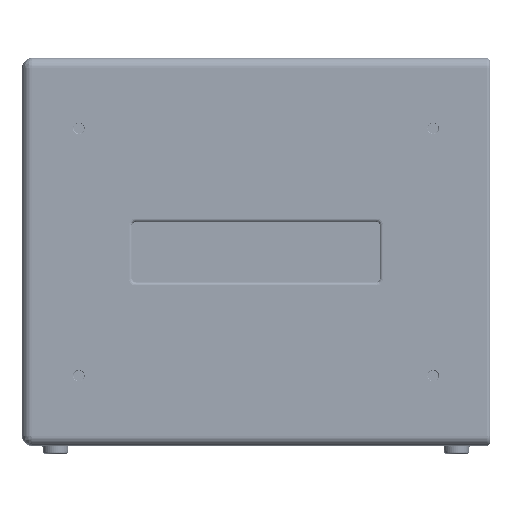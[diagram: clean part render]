
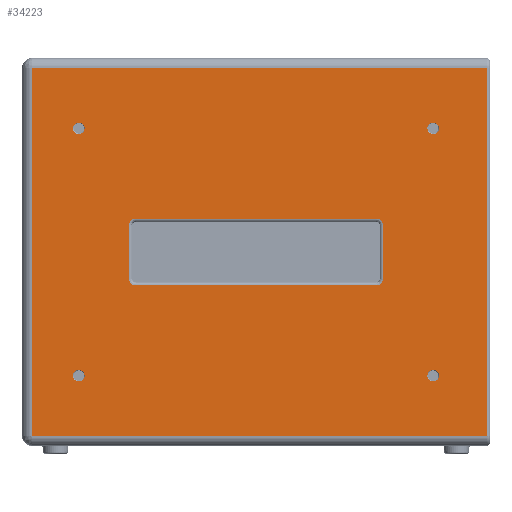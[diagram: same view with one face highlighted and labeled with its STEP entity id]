
A CAD part, left-side view. The second image highlights one B-rep face of the part: STEP entity #34223.
In plain terms, the highlighted planar face has unit normal (-1, 0, 0) as drawn and (1, 0, 0) by its records, which use the part's own axes.
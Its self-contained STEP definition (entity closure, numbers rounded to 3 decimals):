
#27338=FACE_BOUND('',#49678,.T.);
#27339=FACE_BOUND('',#49679,.T.);
#27340=FACE_BOUND('',#49680,.T.);
#27341=FACE_BOUND('',#49681,.T.);
#27342=FACE_BOUND('',#49682,.T.);
#34223=ADVANCED_FACE('',(#41639,#27338,#27339,#27340,#27341,#27342),#149521,
 .T.);
#41639=FACE_OUTER_BOUND('',#49677,.T.);
#49677=EDGE_LOOP('',(#86299,#86300,#86301,#86302));
#49678=EDGE_LOOP('',(#86303,#86304,#86305,#86306,#86307,#86308,#86309,#86310));
#49679=EDGE_LOOP('',(#86311,#86312));
#49680=EDGE_LOOP('',(#86313,#86314));
#49681=EDGE_LOOP('',(#86315,#86316));
#49682=EDGE_LOOP('',(#86317,#86318));
#86299=ORIENTED_EDGE('',*,*,#107610,.T.);
#86300=ORIENTED_EDGE('',*,*,#107615,.F.);
#86301=ORIENTED_EDGE('',*,*,#107616,.F.);
#86302=ORIENTED_EDGE('',*,*,#107617,.F.);
#86303=ORIENTED_EDGE('',*,*,#107611,.F.);
#86304=ORIENTED_EDGE('',*,*,#107665,.F.);
#86305=ORIENTED_EDGE('',*,*,#107612,.F.);
#86306=ORIENTED_EDGE('',*,*,#107656,.F.);
#86307=ORIENTED_EDGE('',*,*,#107613,.F.);
#86308=ORIENTED_EDGE('',*,*,#107663,.F.);
#86309=ORIENTED_EDGE('',*,*,#107614,.F.);
#86310=ORIENTED_EDGE('',*,*,#107669,.F.);
#86311=ORIENTED_EDGE('',*,*,#107646,.F.);
#86312=ORIENTED_EDGE('',*,*,#107575,.T.);
#86313=ORIENTED_EDGE('',*,*,#107643,.F.);
#86314=ORIENTED_EDGE('',*,*,#107582,.T.);
#86315=ORIENTED_EDGE('',*,*,#107640,.F.);
#86316=ORIENTED_EDGE('',*,*,#107589,.T.);
#86317=ORIENTED_EDGE('',*,*,#107637,.F.);
#86318=ORIENTED_EDGE('',*,*,#107596,.T.);
#107575=EDGE_CURVE('',#144538,#144537,#127735,.T.);
#107582=EDGE_CURVE('',#144544,#144543,#127738,.T.);
#107589=EDGE_CURVE('',#144550,#144549,#127741,.T.);
#107596=EDGE_CURVE('',#144556,#144555,#127744,.T.);
#107610=EDGE_CURVE('',#144573,#144572,#122861,.T.);
#107611=EDGE_CURVE('',#144576,#144574,#122862,.T.);
#107612=EDGE_CURVE('',#144578,#144577,#122863,.T.);
#107613=EDGE_CURVE('',#144580,#144579,#122864,.T.);
#107614=EDGE_CURVE('',#144575,#144581,#122865,.T.);
#107615=EDGE_CURVE('',#144582,#144572,#122866,.T.);
#107616=EDGE_CURVE('',#144583,#144582,#122867,.T.);
#107617=EDGE_CURVE('',#144573,#144583,#122868,.T.);
#107637=EDGE_CURVE('',#144556,#144555,#127748,.T.);
#107640=EDGE_CURVE('',#144550,#144549,#127751,.T.);
#107643=EDGE_CURVE('',#144544,#144543,#127754,.T.);
#107646=EDGE_CURVE('',#144538,#144537,#127757,.T.);
#107656=EDGE_CURVE('',#144579,#144578,#127766,.T.);
#107663=EDGE_CURVE('',#144581,#144580,#127773,.T.);
#107665=EDGE_CURVE('',#144577,#144576,#127775,.T.);
#107669=EDGE_CURVE('',#144574,#144575,#127779,.T.);
#122861=B_SPLINE_CURVE_WITH_KNOTS('',1,(#303012,#303013),.UNSPECIFIED.,
 .F.,.F.,(2,2),(-680.,0.),.UNSPECIFIED.);
#122862=B_SPLINE_CURVE_WITH_KNOTS('',1,(#303014,#303015),.UNSPECIFIED.,
 .F.,.F.,(2,2),(-360.,0.),.UNSPECIFIED.);
#122863=B_SPLINE_CURVE_WITH_KNOTS('',1,(#303016,#303017),.UNSPECIFIED.,
 .F.,.F.,(2,2),(-80.,0.),.UNSPECIFIED.);
#122864=B_SPLINE_CURVE_WITH_KNOTS('',1,(#303018,#303019),.UNSPECIFIED.,
 .F.,.F.,(2,2),(-360.,0.),.UNSPECIFIED.);
#122865=B_SPLINE_CURVE_WITH_KNOTS('',1,(#303020,#303021),.UNSPECIFIED.,
 .F.,.F.,(2,2),(-80.,0.),.UNSPECIFIED.);
#122866=B_SPLINE_CURVE_WITH_KNOTS('',1,(#303022,#303023),.UNSPECIFIED.,
 .F.,.F.,(2,2),(-550.,0.),.UNSPECIFIED.);
#122867=B_SPLINE_CURVE_WITH_KNOTS('',1,(#303024,#303025),.UNSPECIFIED.,
 .F.,.F.,(2,2),(-680.,0.),.UNSPECIFIED.);
#122868=B_SPLINE_CURVE_WITH_KNOTS('',1,(#303026,#303027),.UNSPECIFIED.,
 .F.,.F.,(2,2),(-550.,0.),.UNSPECIFIED.);
#127735=TRIMMED_CURVE($,#132445,(#302932),(#302933),.T.,.CARTESIAN.);
#127738=TRIMMED_CURVE($,#132448,(#302949),(#302950),.T.,.CARTESIAN.);
#127741=TRIMMED_CURVE($,#132451,(#302966),(#302967),.T.,.CARTESIAN.);
#127744=TRIMMED_CURVE($,#132454,(#302983),(#302984),.T.,.CARTESIAN.);
#127748=TRIMMED_CURVE($,#132458,(#303069),(#303070),.T.,.CARTESIAN.);
#127751=TRIMMED_CURVE($,#132461,(#303078),(#303079),.T.,.CARTESIAN.);
#127754=TRIMMED_CURVE($,#132464,(#303087),(#303088),.T.,.CARTESIAN.);
#127757=TRIMMED_CURVE($,#132467,(#303096),(#303097),.T.,.CARTESIAN.);
#127766=TRIMMED_CURVE($,#132476,(#303125),(#303126),.T.,.CARTESIAN.);
#127773=TRIMMED_CURVE($,#132483,(#303146),(#303147),.T.,.CARTESIAN.);
#127775=TRIMMED_CURVE($,#132485,(#303152),(#303153),.T.,.CARTESIAN.);
#127779=TRIMMED_CURVE($,#132489,(#303164),(#303165),.T.,.CARTESIAN.);
#132445=CIRCLE('',#167191,8.65);
#132448=CIRCLE('',#167194,8.65);
#132451=CIRCLE('',#167197,8.65);
#132454=CIRCLE('',#167200,8.65);
#132458=CIRCLE('',#167204,8.65);
#132461=CIRCLE('',#167207,8.65);
#132464=CIRCLE('',#167210,8.65);
#132467=CIRCLE('',#167213,8.65);
#132476=CIRCLE('',#167222,10.);
#132483=CIRCLE('',#167229,10.);
#132485=CIRCLE('',#167231,10.);
#132489=CIRCLE('',#167235,10.);
#144537=VERTEX_POINT('',#302862);
#144538=VERTEX_POINT('',#302863);
#144543=VERTEX_POINT('',#302868);
#144544=VERTEX_POINT('',#302869);
#144549=VERTEX_POINT('',#302874);
#144550=VERTEX_POINT('',#302875);
#144555=VERTEX_POINT('',#302880);
#144556=VERTEX_POINT('',#302881);
#144572=VERTEX_POINT('',#302897);
#144573=VERTEX_POINT('',#302898);
#144574=VERTEX_POINT('',#302899);
#144575=VERTEX_POINT('',#302900);
#144576=VERTEX_POINT('',#302901);
#144577=VERTEX_POINT('',#302902);
#144578=VERTEX_POINT('',#302903);
#144579=VERTEX_POINT('',#302904);
#144580=VERTEX_POINT('',#302905);
#144581=VERTEX_POINT('',#302906);
#144582=VERTEX_POINT('',#302907);
#144583=VERTEX_POINT('',#302908);
#149521=PLANE('',#167165);
#167165=AXIS2_PLACEMENT_3D('',#302115,#182432,$);
#167191=AXIS2_PLACEMENT_3D($,#302931,#182459,#182460);
#167194=AXIS2_PLACEMENT_3D($,#302948,#182465,#182466);
#167197=AXIS2_PLACEMENT_3D($,#302965,#182471,#182472);
#167200=AXIS2_PLACEMENT_3D($,#302982,#182477,#182478);
#167204=AXIS2_PLACEMENT_3D($,#303068,#182485,#182486);
#167207=AXIS2_PLACEMENT_3D($,#303077,#182491,#182492);
#167210=AXIS2_PLACEMENT_3D($,#303086,#182497,#182498);
#167213=AXIS2_PLACEMENT_3D($,#303095,#182503,#182504);
#167222=AXIS2_PLACEMENT_3D($,#303124,#182521,#182522);
#167229=AXIS2_PLACEMENT_3D($,#303145,#182535,#182536);
#167231=AXIS2_PLACEMENT_3D($,#303151,#182539,#182540);
#167235=AXIS2_PLACEMENT_3D($,#303163,#182547,#182548);
#182432=DIRECTION('',(1.,0.,0.));
#182459=DIRECTION('',(-1.,0.,0.));
#182460=DIRECTION('',(0.,0.,-1.));
#182465=DIRECTION('',(-1.,0.,0.));
#182466=DIRECTION('',(0.,0.,-1.));
#182471=DIRECTION('',(-1.,0.,0.));
#182472=DIRECTION('',(0.,0.,-1.));
#182477=DIRECTION('',(-1.,0.,0.));
#182478=DIRECTION('',(0.,0.,-1.));
#182485=DIRECTION('',(1.,0.,0.));
#182486=DIRECTION('',(0.,0.,-1.));
#182491=DIRECTION('',(1.,0.,0.));
#182492=DIRECTION('',(0.,0.,-1.));
#182497=DIRECTION('',(1.,0.,0.));
#182498=DIRECTION('',(0.,0.,-1.));
#182503=DIRECTION('',(1.,0.,0.));
#182504=DIRECTION('',(0.,0.,-1.));
#182521=DIRECTION('',(1.,0.,0.));
#182522=DIRECTION('',(0.,-1.,0.));
#182535=DIRECTION('',(1.,0.,0.));
#182536=DIRECTION('',(0.,0.,1.));
#182539=DIRECTION('',(1.,0.,0.));
#182540=DIRECTION('',(0.,0.,-1.));
#182547=DIRECTION('',(1.,0.,0.));
#182548=DIRECTION('',(0.,1.,0.));
#302115=CARTESIAN_POINT('',(7.5,-330.,-63.));
#302862=CARTESIAN_POINT('',(7.5,185.,93.65));
#302863=CARTESIAN_POINT('',(7.5,185.,76.35));
#302868=CARTESIAN_POINT('',(7.5,185.,623.65));
#302869=CARTESIAN_POINT('',(7.5,185.,606.35));
#302874=CARTESIAN_POINT('',(7.5,-185.,623.65));
#302875=CARTESIAN_POINT('',(7.5,-185.,606.35));
#302880=CARTESIAN_POINT('',(7.5,-185.,93.65));
#302881=CARTESIAN_POINT('',(7.5,-185.,76.35));
#302897=CARTESIAN_POINT('',(7.5,-275.,5.));
#302898=CARTESIAN_POINT('',(7.5,-275.,685.));
#302899=CARTESIAN_POINT('',(7.5,50.,530.));
#302900=CARTESIAN_POINT('',(7.5,40.,540.));
#302901=CARTESIAN_POINT('',(7.5,50.,170.));
#302902=CARTESIAN_POINT('',(7.5,40.,160.));
#302903=CARTESIAN_POINT('',(7.5,-40.,160.));
#302904=CARTESIAN_POINT('',(7.5,-50.,170.));
#302905=CARTESIAN_POINT('',(7.5,-50.,530.));
#302906=CARTESIAN_POINT('',(7.5,-40.,540.));
#302907=CARTESIAN_POINT('',(7.5,275.,5.));
#302908=CARTESIAN_POINT('',(7.5,275.,685.));
#302931=CARTESIAN_POINT('',(7.5,185.,85.));
#302932=CARTESIAN_POINT('',(7.5,185.,76.35));
#302933=CARTESIAN_POINT('',(7.5,185.,93.65));
#302948=CARTESIAN_POINT('',(7.5,185.,615.));
#302949=CARTESIAN_POINT('',(7.5,185.,606.35));
#302950=CARTESIAN_POINT('',(7.5,185.,623.65));
#302965=CARTESIAN_POINT('',(7.5,-185.,615.));
#302966=CARTESIAN_POINT('',(7.5,-185.,606.35));
#302967=CARTESIAN_POINT('',(7.5,-185.,623.65));
#302982=CARTESIAN_POINT('',(7.5,-185.,85.));
#302983=CARTESIAN_POINT('',(7.5,-185.,76.35));
#302984=CARTESIAN_POINT('',(7.5,-185.,93.65));
#303012=CARTESIAN_POINT('',(7.5,-275.,685.));
#303013=CARTESIAN_POINT('',(7.5,-275.,5.));
#303014=CARTESIAN_POINT('',(7.5,50.,170.));
#303015=CARTESIAN_POINT('',(7.5,50.,530.));
#303016=CARTESIAN_POINT('',(7.5,-40.,160.));
#303017=CARTESIAN_POINT('',(7.5,40.,160.));
#303018=CARTESIAN_POINT('',(7.5,-50.,530.));
#303019=CARTESIAN_POINT('',(7.5,-50.,170.));
#303020=CARTESIAN_POINT('',(7.5,40.,540.));
#303021=CARTESIAN_POINT('',(7.5,-40.,540.));
#303022=CARTESIAN_POINT('',(7.5,275.,5.));
#303023=CARTESIAN_POINT('',(7.5,-275.,5.));
#303024=CARTESIAN_POINT('',(7.5,275.,685.));
#303025=CARTESIAN_POINT('',(7.5,275.,5.));
#303026=CARTESIAN_POINT('',(7.5,-275.,685.));
#303027=CARTESIAN_POINT('',(7.5,275.,685.));
#303068=CARTESIAN_POINT('',(7.5,-185.,85.));
#303069=CARTESIAN_POINT('',(7.5,-185.,76.35));
#303070=CARTESIAN_POINT('',(7.5,-185.,93.65));
#303077=CARTESIAN_POINT('',(7.5,-185.,615.));
#303078=CARTESIAN_POINT('',(7.5,-185.,606.35));
#303079=CARTESIAN_POINT('',(7.5,-185.,623.65));
#303086=CARTESIAN_POINT('',(7.5,185.,615.));
#303087=CARTESIAN_POINT('',(7.5,185.,606.35));
#303088=CARTESIAN_POINT('',(7.5,185.,623.65));
#303095=CARTESIAN_POINT('',(7.5,185.,85.));
#303096=CARTESIAN_POINT('',(7.5,185.,76.35));
#303097=CARTESIAN_POINT('',(7.5,185.,93.65));
#303124=CARTESIAN_POINT('',(7.5,-40.,170.));
#303125=CARTESIAN_POINT('',(7.5,-50.,170.));
#303126=CARTESIAN_POINT('',(7.5,-40.,160.));
#303145=CARTESIAN_POINT('',(7.5,-40.,530.));
#303146=CARTESIAN_POINT('',(7.5,-40.,540.));
#303147=CARTESIAN_POINT('',(7.5,-50.,530.));
#303151=CARTESIAN_POINT('',(7.5,40.,170.));
#303152=CARTESIAN_POINT('',(7.5,40.,160.));
#303153=CARTESIAN_POINT('',(7.5,50.,170.));
#303163=CARTESIAN_POINT('',(7.5,40.,530.));
#303164=CARTESIAN_POINT('',(7.5,50.,530.));
#303165=CARTESIAN_POINT('',(7.5,40.,540.));
